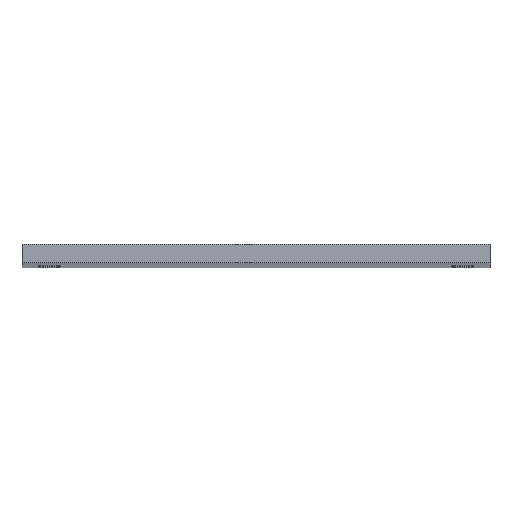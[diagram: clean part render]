
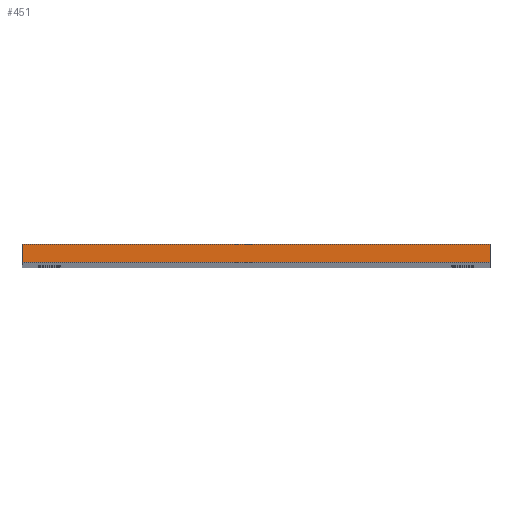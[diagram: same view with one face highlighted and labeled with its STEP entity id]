
A CAD part, top view. The second image highlights one B-rep face of the part: STEP entity #451.
In plain terms, the highlighted planar face has unit normal (0, 0, 1).
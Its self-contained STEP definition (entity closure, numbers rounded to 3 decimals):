
#10 = VECTOR ( 'NONE', #890, 1000. ) ;
#43 = VERTEX_POINT ( 'NONE', #138 ) ;
#72 = VECTOR ( 'NONE', #521, 1000. ) ;
#96 = LINE ( 'NONE', #461, #72 ) ;
#99 = VECTOR ( 'NONE', #862, 1000. ) ;
#101 = CARTESIAN_POINT ( 'NONE',  ( 0., 1.8, 0. ) ) ;
#106 = CARTESIAN_POINT ( 'NONE',  ( 46.6, 1.8, 0. ) ) ;
#138 = CARTESIAN_POINT ( 'NONE',  ( 46.6, 1.8, 0. ) ) ;
#150 = CARTESIAN_POINT ( 'NONE',  ( 0., 1.8, 0. ) ) ;
#163 = CARTESIAN_POINT ( 'NONE',  ( 0., 0., 0. ) ) ;
#198 = DIRECTION ( 'NONE',  ( 0., -1., 0. ) ) ;
#208 = PLANE ( 'NONE',  #370 ) ;
#242 = ORIENTED_EDGE ( 'NONE', *, *, #937, .T. ) ;
#337 = VERTEX_POINT ( 'NONE', #774 ) ;
#358 = ORIENTED_EDGE ( 'NONE', *, *, #728, .F. ) ;
#370 = AXIS2_PLACEMENT_3D ( 'NONE', #718, #710, #799 ) ;
#371 = LINE ( 'NONE', #101, #10 ) ;
#412 = EDGE_LOOP ( 'NONE', ( #242, #358, #549, #641 ) ) ;
#420 = FACE_OUTER_BOUND ( 'NONE', #412, .T. ) ;
#451 = ADVANCED_FACE ( 'NONE', ( #420 ), #208, .F. ) ;
#461 = CARTESIAN_POINT ( 'NONE',  ( 0., 0., 0. ) ) ;
#469 = EDGE_CURVE ( 'NONE', #840, #619, #805, .T. ) ;
#521 = DIRECTION ( 'NONE',  ( 1., 0., 0. ) ) ;
#549 = ORIENTED_EDGE ( 'NONE', *, *, #565, .F. ) ;
#565 = EDGE_CURVE ( 'NONE', #840, #43, #371, .T. ) ;
#599 = VECTOR ( 'NONE', #198, 1000. ) ;
#619 = VERTEX_POINT ( 'NONE', #163 ) ;
#641 = ORIENTED_EDGE ( 'NONE', *, *, #469, .T. ) ;
#645 = CARTESIAN_POINT ( 'NONE',  ( 0., 1.8, 0. ) ) ;
#710 = DIRECTION ( 'NONE',  ( 0., 0., -1. ) ) ;
#718 = CARTESIAN_POINT ( 'NONE',  ( 0., 1.8, 0. ) ) ;
#728 = EDGE_CURVE ( 'NONE', #43, #337, #765, .T. ) ;
#765 = LINE ( 'NONE', #106, #599 ) ;
#774 = CARTESIAN_POINT ( 'NONE',  ( 46.6, 0., 0. ) ) ;
#799 = DIRECTION ( 'NONE',  ( -1., 0., 0. ) ) ;
#805 = LINE ( 'NONE', #150, #99 ) ;
#840 = VERTEX_POINT ( 'NONE', #645 ) ;
#862 = DIRECTION ( 'NONE',  ( 0., -1., 0. ) ) ;
#890 = DIRECTION ( 'NONE',  ( 1., 0., 0. ) ) ;
#937 = EDGE_CURVE ( 'NONE', #619, #337, #96, .T. ) ;
